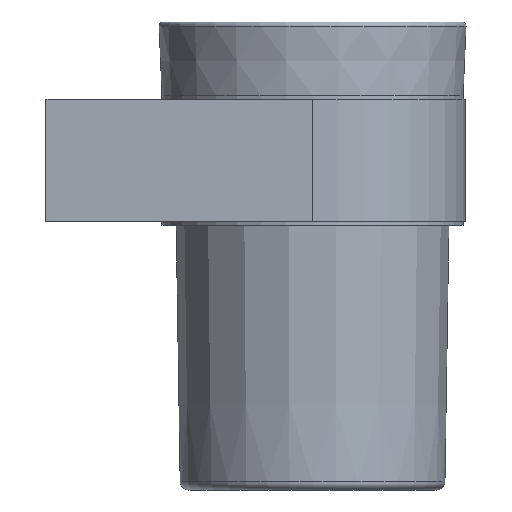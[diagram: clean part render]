
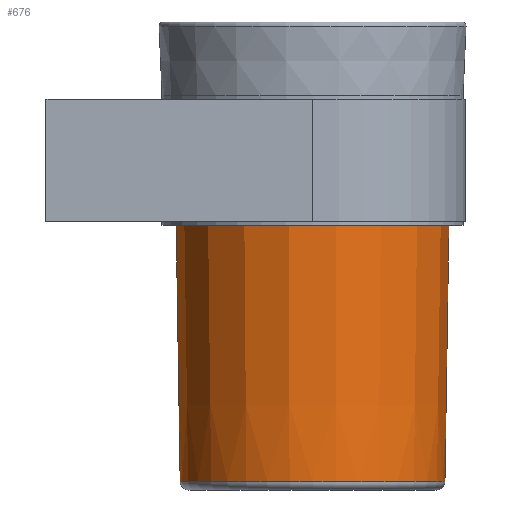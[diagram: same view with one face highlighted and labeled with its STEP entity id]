
A CAD part, front view. The second image highlights one B-rep face of the part: STEP entity #676.
In plain terms, the highlighted conical face has half-angle 0.886 degrees and reference radius 34 mm.
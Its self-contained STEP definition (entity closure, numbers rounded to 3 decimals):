
#102=CONICAL_SURFACE('',#2577,34.,0.886);
#568=FACE_OUTER_BOUND('',#989,.T.);
#676=ADVANCED_FACE('',(#866,#568),#102,.T.);
#806=CIRCLE('',#2570,34.);
#809=CIRCLE('',#2576,32.53);
#866=FACE_BOUND('',#988,.T.);
#988=EDGE_LOOP('',(#1562));
#989=EDGE_LOOP('',(#1563));
#1562=ORIENTED_EDGE('',*,*,#2265,.T.);
#1563=ORIENTED_EDGE('',*,*,#2262,.T.);
#1942=VERTEX_POINT('',#5319);
#1945=VERTEX_POINT('',#5328);
#2262=EDGE_CURVE('',#1942,#1942,#806,.T.);
#2265=EDGE_CURVE('',#1945,#1945,#809,.T.);
#2570=AXIS2_PLACEMENT_3D('',#5318,#2982,#2983);
#2576=AXIS2_PLACEMENT_3D('',#5327,#2994,#2995);
#2577=AXIS2_PLACEMENT_3D('',#5329,#2996,#2997);
#2982=DIRECTION('',(0.,0.,-1.));
#2983=DIRECTION('',(-1.,0.,0.));
#2994=DIRECTION('',(0.,0.,1.));
#2995=DIRECTION('',(-1.,0.,0.));
#2996=DIRECTION('',(0.,0.,1.));
#2997=DIRECTION('',(1.,0.,0.));
#5318=CARTESIAN_POINT('',(-90.,-203.,49.));
#5319=CARTESIAN_POINT('',(-124.,-203.,49.));
#5327=CARTESIAN_POINT('',(-90.,-203.,-46.031));
#5328=CARTESIAN_POINT('',(-122.53,-203.,-46.031));
#5329=CARTESIAN_POINT('',(-90.,-203.,49.));
